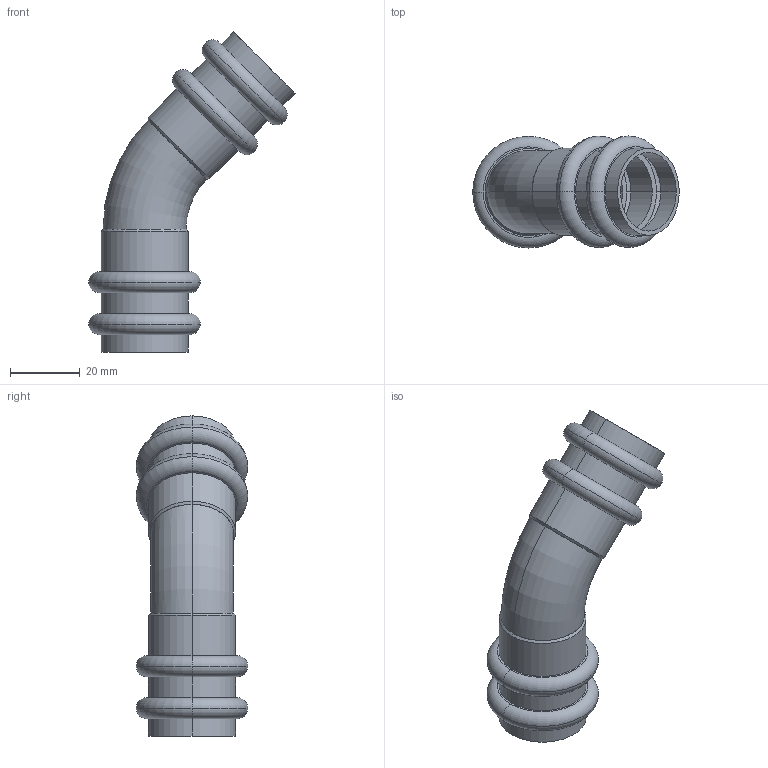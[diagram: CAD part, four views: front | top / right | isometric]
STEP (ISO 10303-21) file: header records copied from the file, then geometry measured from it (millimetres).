
FILE_DESCRIPTION(('starvars output'),'1');
FILE_NAME('cv20240422105118000011663.stp','10:51:19 2024/04/22',('Thomas Industrial Network Germany GmbH'),(' '),'Spatial InterOp 3D',' ',' ');
FILE_SCHEMA(('AUTOMOTIVE_DESIGN { 1 0 10303 214 3 1 1 }'));
Length unit declared in the file: millimetre
Products named in the file (1): 1
Bounding box: 59.03 x 31.9 x 91.55 mm (x, y, z)
Volume: 12774.1 mm3; surface area: 17227.3 mm2
Topology: 1 solids, 1 shells, 74 faces, 148 edges, 92 vertices
Faces by surface type: torus 28, cylinder 20, plane 18, cone 8
Entity records: 2904 total; most frequent: CARTESIAN_POINT 639, DIRECTION 410, ORIENTED_EDGE 296, AXIS2_PLACEMENT_3D 191, EDGE_CURVE 148, CIRCLE 116, EDGE_LOOP 92, VERTEX_POINT 92
